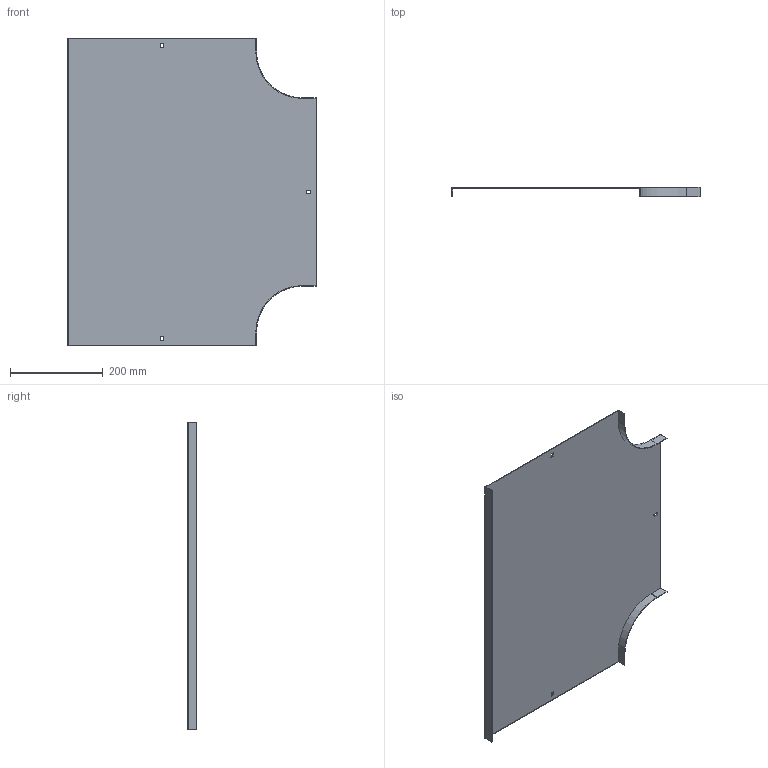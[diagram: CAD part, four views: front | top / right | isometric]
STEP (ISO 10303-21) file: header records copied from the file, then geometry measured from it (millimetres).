
FILE_DESCRIPTION (( 'STEP AP214' ), '1' );
FILE_NAME ('15G1R400.step', '2025-02-21T13:02:50', ( '' ), ( '' ), 'SwSTEP 2.0', 'SolidWorks 2023', '' );
FILE_SCHEMA (( 'AUTOMOTIVE_DESIGN' ));
Length unit declared in the file: millimetre
Products named in the file (1): 15G1R400
Bounding box: 535.5 x 20 x 664 mm (x, y, z)
Volume: 520212.9 mm3; surface area: 697394.9 mm2
Topology: 1 solids, 1 shells, 34 faces, 96 edges, 64 vertices
Faces by surface type: plane 30, cylinder 4
Entity records: 1123 total; most frequent: CARTESIAN_POINT 195, ORIENTED_EDGE 192, DIRECTION 174, EDGE_CURVE 96, LINE 88, VECTOR 88, VERTEX_POINT 64, AXIS2_PLACEMENT_3D 43
